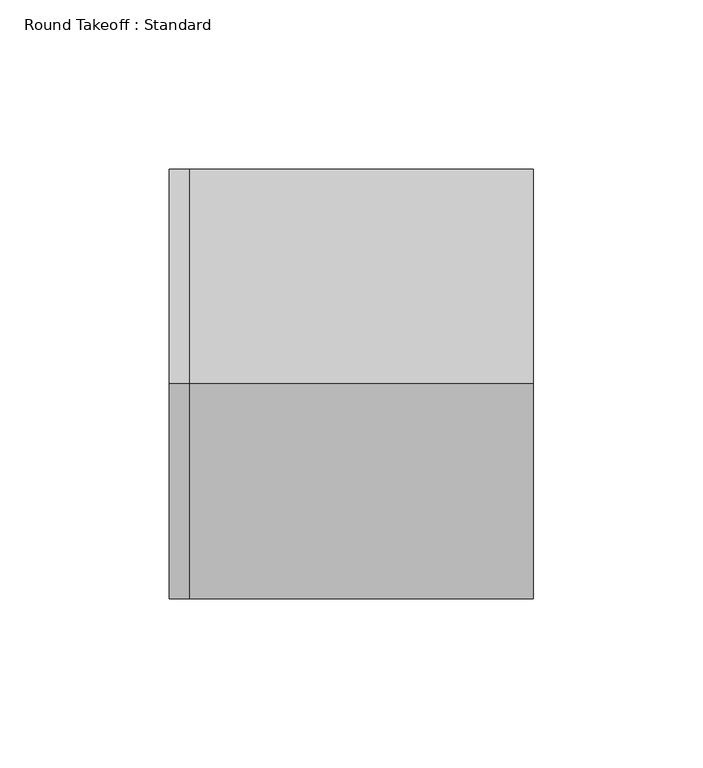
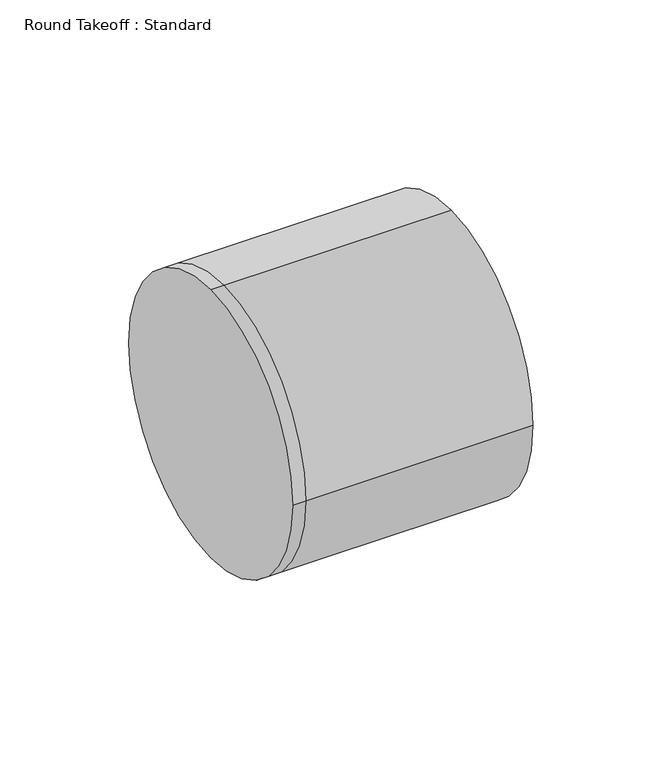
"""IFC4 building model written with IfcOpenShell, lengths in millimetres: duct fitting geometry, Round Takeoff : Standard."""

import ifcopenshell
import ifcopenshell.guid

model = None  # the IFC model being written
_history = None  # IfcOwnerHistory: only IFC2X3 demands one
_inside = {}  # id of a spatial element -> (the spatial element, [elements in it])
_under = {}  # id of a project, library or spatial element -> (it, [spatial elements below it])
_declared = {}  # id of a project -> (the project, [libraries it declares])
_typed = {}  # id of a type object -> (the type object, [elements of that type])
_made_of = {}  # id of a material, layer set ... -> (it, [elements and type objects made of it])


def new_model(schema):
    """Start an empty IFC model of exactly this schema.

    Asked for "IFC4X3", IfcOpenShell would pick the latest addendum, in which some entities
    have other attributes; the version numbers below select the first issue.
    IFC2X3 requires an IfcOwnerHistory on every rooted entity: one is made here for all.
    """
    global model, _history
    if schema == "IFC4X3":
        model = ifcopenshell.file(schema_version=(4, 3, 0, 0))
    else:
        model = ifcopenshell.file(schema=schema)
    _inside.clear()
    _under.clear()
    _declared.clear()
    _typed.clear()
    _made_of.clear()
    _history = None
    if model.schema == "IFC2X3":
        org = make("IfcOrganization", Name="unknown")
        user = make(
            "IfcPersonAndOrganization",
            ThePerson=make("IfcPerson", FamilyName="unknown"),
            TheOrganization=org,
        )
        app = make(
            "IfcApplication",
            ApplicationDeveloper=org,
            Version="unknown",
            ApplicationFullName="unknown",
            ApplicationIdentifier="unknown",
        )
        _history = make(
            "IfcOwnerHistory",
            OwningUser=user,
            OwningApplication=app,
            ChangeAction="ADDED",
            CreationDate=0,
        )
    return model


def make(cls, **values):
    """One entity of the class cls with the attributes given. An attribute that is None is left unset."""
    return model.create_entity(
        cls, **{name: value for name, value in values.items() if value is not None}
    )


def rooted(cls, **values):
    """An entity with a GlobalId (a new one), such as an element, a storey or a relation."""
    return make(cls, GlobalId=ifcopenshell.guid.new(), OwnerHistory=_history, **values)


def si_unit(unit_type, name, prefix=None):
    """IfcSIUnit, for example si_unit("LENGTHUNIT", "METRE", prefix="MILLI")."""
    return make("IfcSIUnit", UnitType=unit_type, Prefix=prefix, Name=name)


def assignment(units):
    """IfcUnitAssignment: the units of a project."""
    return None if units is None else make("IfcUnitAssignment", Units=units)


def point(xyz):
    """IfcCartesianPoint."""
    return None if xyz is None else make("IfcCartesianPoint", Coordinates=xyz)


def direction(xyz):
    """IfcDirection."""
    return None if xyz is None else make("IfcDirection", DirectionRatios=xyz)


def frame(location, z_axis=None, x_axis=None):
    """IfcAxis2Placement3D, a coordinate frame: its origin and axes. An axis left out is left unset."""
    return make(
        "IfcAxis2Placement3D",
        Location=point(location),
        Axis=direction(z_axis),
        RefDirection=direction(x_axis),
    )


def origin():
    """The frame at (0, 0, 0) with its axes left unset."""
    return frame((0.0, 0.0, 0.0))


def place(relative_to, where):
    """IfcLocalPlacement: puts the frame where relative to a parent placement (None: the world)."""
    return make(
        "IfcLocalPlacement", PlacementRelTo=relative_to, RelativePlacement=where
    )


def context(
    kind, dimensions, precision=None, world=None, true_north=None, identifier=None
):
    """IfcGeometricRepresentationContext, for example the 3D "Model" context."""
    return make(
        "IfcGeometricRepresentationContext",
        ContextIdentifier=identifier,
        ContextType=kind,
        CoordinateSpaceDimension=dimensions,
        Precision=precision,
        WorldCoordinateSystem=world,
        TrueNorth=true_north,
    )


def project(units=None, contexts=None):
    """IfcProject with its units and contexts."""
    return rooted(
        "IfcProject",
        Name="project",
        RepresentationContexts=contexts,
        UnitsInContext=assignment(units),
    )


def spatial(cls, under=None, at=None, **own):
    """A site, building, storey or space (cls), placed at a placement, below another one or the project."""
    s = rooted(cls, ObjectPlacement=at, **own)
    if under is not None:
        _under.setdefault(under.id(), (under, []))[1].append(s)
    return s


def circle_curve(where, radius):
    """IfcCircle in the frame where."""
    return make("IfcCircle", Position=where, Radius=radius)


def shape(context_of_items, identifier, shape_type, items):
    """IfcShapeRepresentation: the items that make up one representation, for example the "Body"."""
    return make(
        "IfcShapeRepresentation",
        ContextOfItems=context_of_items,
        RepresentationIdentifier=identifier,
        RepresentationType=shape_type,
        Items=items,
    )


def source(mapping_origin, context_of_items, identifier, shape_type, items):
    """IfcRepresentationMap: a shape defined once, which mapped items show again and again."""
    return make(
        "IfcRepresentationMap",
        MappingOrigin=mapping_origin,
        MappedRepresentation=shape(context_of_items, identifier, shape_type, items),
    )


def transform(
    local_origin,
    x_axis=None,
    y_axis=None,
    z_axis=None,
    scale=None,
    scale2=None,
    scale3=None,
    uniform=True,
):
    """IfcCartesianTransformationOperator3D, or its non-uniform kind. x_axis, y_axis, z_axis: its Axis1, 2, 3."""
    if uniform:
        return make(
            "IfcCartesianTransformationOperator3D",
            Axis1=direction(x_axis),
            Axis2=direction(y_axis),
            LocalOrigin=point(local_origin),
            Scale=scale,
            Axis3=direction(z_axis),
        )
    return make(
        "IfcCartesianTransformationOperator3DnonUniform",
        Axis1=direction(x_axis),
        Axis2=direction(y_axis),
        LocalOrigin=point(local_origin),
        Scale=scale,
        Axis3=direction(z_axis),
        Scale2=scale2,
        Scale3=scale3,
    )


def mapped(mapping_source, mapping_target):
    """IfcMappedItem: shows the shape of a source again, moved by a transform."""
    return make(
        "IfcMappedItem", MappingSource=mapping_source, MappingTarget=mapping_target
    )


def made_of(thing, what):
    """Note that an element or type object is made of a material, layer set ...; save() writes the relation."""
    if what is not None:
        _made_of.setdefault(what.id(), (what, []))[1].append(thing)
    return thing


def element(
    cls,
    number,
    at=None,
    inside=None,
    cuts=None,
    type_object=None,
    material=None,
    context=None,
    identifier="Body",
    shape_type=None,
    held_by="IfcProductDefinitionShape",
    body=None,
    shapes=None,
    **own,
):
    """One element of the class cls, such as IfcWall. Its Tag is "e" and its number.

    at: its placement. inside: the storey or other place that contains it. cuts: it is an
    opening in that element (IfcRelVoidsElement). A single representation is given by context,
    identifier, shape_type and body (its items); several are given by shapes. held_by: the class
    of the entity that holds the representations. save() writes the other relations.
    """
    e = rooted(cls, Tag="e%d" % number, ObjectPlacement=at, **own)
    if body is not None:
        shapes = [shape(context, identifier, shape_type, body)]
    if shapes is not None:
        e.Representation = make(held_by, Representations=shapes)
    if inside is not None:
        _inside.setdefault(inside.id(), (inside, []))[1].append(e)
    if cuts is not None:
        rooted(
            "IfcRelVoidsElement", RelatingBuildingElement=cuts, RelatedOpeningElement=e
        )
    if type_object is not None:
        _typed.setdefault(type_object.id(), (type_object, []))[1].append(e)
    return made_of(e, material)


def aggregate(whole, parts):
    """IfcRelAggregates: a whole, such as a stair, and the parts it consists of."""
    return rooted("IfcRelAggregates", RelatingObject=whole, RelatedObjects=parts)


def save(model, path):
    """Write the relations noted so far, then the file.

    IfcRelAggregates (storeys below a building ...), IfcRelContainedInSpatialStructure (elements
    in a storey), IfcRelDefinesByType, IfcRelAssociatesMaterial and IfcRelDeclares: one each for
    every whole, place, type object, material and project.
    """
    for whole, parts in _under.values():
        aggregate(whole, parts)
    for where, things in _inside.values():
        rooted(
            "IfcRelContainedInSpatialStructure",
            RelatedElements=things,
            RelatingStructure=where,
        )
    for kind, things in _typed.values():
        rooted("IfcRelDefinesByType", RelatedObjects=things, RelatingType=kind)
    for what, things in _made_of.values():
        rooted("IfcRelAssociatesMaterial", RelatedObjects=things, RelatingMaterial=what)
    for by, libraries in _declared.values():
        rooted("IfcRelDeclares", RelatingContext=by, RelatedDefinitions=libraries)
    model.write(path)


def plane_surface(at):
    """IfcPlane: the flat surface through the origin of the frame at, square to its z axis."""
    return make("IfcPlane", Position=at)


def cylinder_surface(at, radius):
    """IfcCylindricalSurface: all points at the distance radius from the z axis of the frame at."""
    return make("IfcCylindricalSurface", Position=at, Radius=radius)


def advanced_brep(points, edges, surfaces, faces):
    """IfcAdvancedBrep: a solid bounded by faces that lie on surfaces and meet in shared edges.

    An edge is (start, end): straight between two places in points (the first is 0);
    or (start, end, curve); or (start, end, curve, False) where it runs against its curve.
    A face is (place in surfaces, loops), or (place, loops, False) where it looks against
    its surface's normal. A loop lists edges by number (the first is 1), with a minus sign
    where the edge is run from its end to its start. The first loop is the outer one.
    """
    corners = [point(p) for p in points]
    vertices = [make("IfcVertexPoint", VertexGeometry=c) for c in corners]
    made = []
    for start, end, *more in edges:
        made.append(
            make(
                "IfcEdgeCurve",
                EdgeStart=vertices[start],
                EdgeEnd=vertices[end],
                EdgeGeometry=more[0] if more else make("IfcPolyline", Points=[corners[start], corners[end]]),
                SameSense=more[1] if len(more) > 1 else True,
            )
        )
    hull = []
    for where, loops, *sense in faces:
        bounds = []
        for j, loop in enumerate(loops):
            ring = [make("IfcOrientedEdge", EdgeElement=made[abs(k) - 1], Orientation=k > 0) for k in loop]
            bounds.append(
                make(
                    "IfcFaceOuterBound" if j == 0 else "IfcFaceBound",
                    Bound=make("IfcEdgeLoop", EdgeList=ring),
                    Orientation=True,
                )
            )
        hull.append(make("IfcAdvancedFace", Bounds=bounds, FaceSurface=surfaces[where], SameSense=sense[0] if sense else True))
    return make("IfcAdvancedBrep", Outer=make("IfcClosedShell", CfsFaces=hull))


def round_takeoff_standard_fb854549(model_context):
    return source(origin(), model_context, "Body", "AdvancedBrep", [
        advanced_brep(
        [(101.6, 0.0, 63.5), (101.6, -63.5, 0.0), (101.6, 0.0, -63.5), (101.6, 63.5, 0.0), (0.0, 0.0, 63.5), (0.0, -63.5, 0.0), (0.0, 0.0, -63.5), (0.0, 63.5, 0.0), (-6.096, 0.0, 63.5), (-6.096, 63.5, 0.0), (-6.096, 0.0, -63.5), (-6.096, -63.5, 0.0)],
        [
            (0, 1, circle_curve(frame((101.6, 0.0, 0.0), z_axis=(1.0, 0.0, 0.0), x_axis=(0.0, -1.0, 0.0)), 63.5)),
            (1, 2, circle_curve(frame((101.6, 0.0, 0.0), z_axis=(1.0, 0.0, 0.0), x_axis=(0.0, -1.0, 0.0)), 63.5)),
            (2, 3, circle_curve(frame((101.6, 0.0, 0.0), z_axis=(1.0, 0.0, 0.0), x_axis=(0.0, -1.0, 0.0)), 63.5)),
            (3, 0, circle_curve(frame((101.6, 0.0, 0.0), z_axis=(1.0, 0.0, 0.0), x_axis=(0.0, -1.0, 0.0)), 63.5)),
            (0, 4),
            (4, 5, circle_curve(frame((0.0, 0.0, 0.0), z_axis=(1.0, 0.0, 0.0), x_axis=(0.0, -1.0, 0.0)), 63.5)),
            (5, 1),
            (5, 6, circle_curve(frame((0.0, 0.0, 0.0), z_axis=(1.0, 0.0, 0.0), x_axis=(0.0, -1.0, 0.0)), 63.5)),
            (6, 2),
            (6, 7, circle_curve(frame((0.0, 0.0, 0.0), z_axis=(1.0, 0.0, 0.0), x_axis=(0.0, -1.0, 0.0)), 63.5)),
            (7, 3),
            (7, 4, circle_curve(frame((0.0, 0.0, 0.0), z_axis=(1.0, 0.0, 0.0), x_axis=(0.0, -1.0, 0.0)), 63.5)),
            (8, 9, circle_curve(frame((-6.096, 0.0, 0.0), z_axis=(-1.0, 0.0, 0.0), x_axis=(0.0, -1.0, 0.0)), 63.5)),
            (9, 10, circle_curve(frame((-6.096, 0.0, 0.0), z_axis=(-1.0, 0.0, 0.0), x_axis=(0.0, -1.0, 0.0)), 63.5)),
            (10, 11, circle_curve(frame((-6.096, 0.0, 0.0), z_axis=(-1.0, 0.0, 0.0), x_axis=(0.0, -1.0, 0.0)), 63.5)),
            (11, 8, circle_curve(frame((-6.096, 0.0, 0.0), z_axis=(-1.0, 0.0, 0.0), x_axis=(0.0, -1.0, 0.0)), 63.5)),
            (11, 5),
            (4, 8),
            (10, 6),
            (9, 7),
        ],
        [
            plane_surface(frame((101.6, 0.0, 0.0), z_axis=(1.0, 0.0, 0.0), x_axis=(0.0, 0.0, 1.0))),
            cylinder_surface(frame((0.0, 0.0, 0.0), z_axis=(-1.0, 0.0, 0.0), x_axis=(0.0, -1.0, 0.0)), 63.5),
            plane_surface(frame((-6.096, 0.0, 0.0), z_axis=(-1.0, 0.0, 0.0), x_axis=(0.0, 0.0, 1.0))),
            cylinder_surface(frame((-6.096, 0.0, 0.0), z_axis=(-1.0, 0.0, 0.0), x_axis=(0.0, -1.0, 0.0)), 63.5),
        ],
        [
            (0, [[1, 2, 3, 4]]),
            (1, [[5, 6, 7, -1]]),
            (1, [[-7, 8, 9, -2]]),
            (1, [[-9, 10, 11, -3]]),
            (1, [[-11, 12, -5, -4]]),
            (2, [[13, 14, 15, 16]]),
            (3, [[17, -6, 18, -16]]),
            (3, [[19, -8, -17, -15]]),
            (3, [[20, -10, -19, -14]]),
            (3, [[-18, -12, -20, -13]]),
        ],
    ),
    ])


if __name__ == "__main__":
    model = new_model("IFC4")
    model_context = context("Model", 3, world=origin())
    ifc_project = project(units=[si_unit("LENGTHUNIT", "METRE", prefix="MILLI")], contexts=[model_context])
    site = spatial("IfcSite", under=ifc_project)
    building = spatial("IfcBuilding", under=site)
    placement = place(None, origin())
    round_takeoff_standard_shape = round_takeoff_standard_fb854549(model_context)
    element("IfcDuctFitting", 1, ObjectType="Round Takeoff : Standard", at=placement, inside=building, context=model_context, shape_type="MappedRepresentation", body=[
        mapped(round_takeoff_standard_shape, transform((0.0, 0.0, 0.0), x_axis=(1.0, 0.0, 0.0), y_axis=(0.0, 1.0, 0.0), z_axis=(0.0, 0.0, 1.0))),
    ])
    save(model, "model.ifc")
